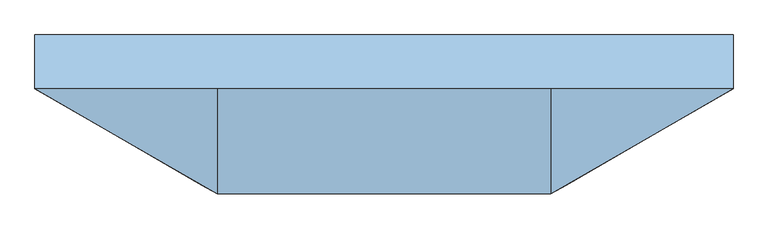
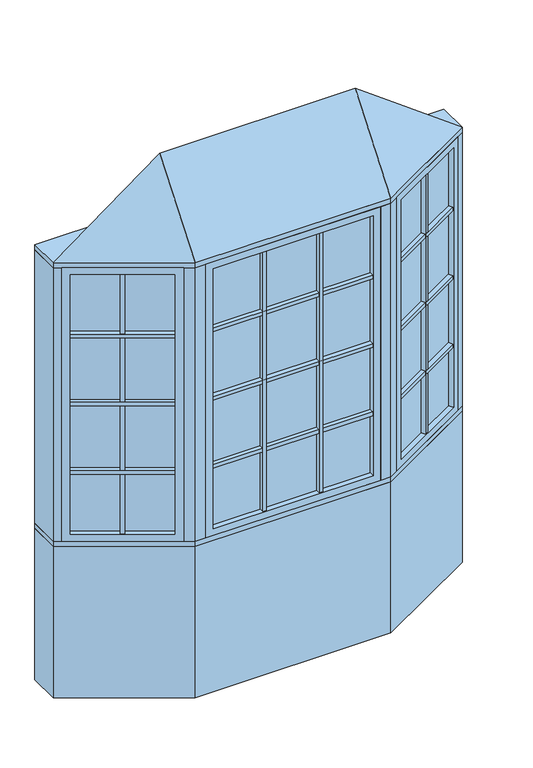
"""IFC4 building model written with IfcOpenShell, lengths in millimetres: window geometry, Pollard_Windows_Tudor Casement Bows and Bays : AML-BAY 30 AFR0514-10-500_GC."""

from ifc_helpers import new_model, si_unit, frame, origin, origin_with_axes, place, context, project, spatial, polyline, outline, extrude, faceted_brep, source, transform, mapped, element, save


def window_1a263967(model_context):
    return source(origin(), model_context, "Body", "SolidModel", [
        extrude(outline(polyline([(545.7305346, -327.3537343), (534.7305346, -308.3011754), (915.6135794, -88.3982469), (926.6135794, -107.4508058), (545.7305346, -327.3537343)])), frame((0.0, 0.0, 1490.998), z_axis=(0.0, 0.0, 1.0), x_axis=(1.0, 0.0, 0.0)), (0.0, 0.0, 1.0), 18.0),
        extrude(outline(polyline([(532.1905346, -303.9017664), (521.1905346, -284.8492075), (902.0735794, -64.946279), (913.0735794, -83.9988379), (532.1905346, -303.9017664)])), frame((0.0, 0.0, 1490.998), z_axis=(0.0, 0.0, 1.0), x_axis=(1.0, 0.0, 0.0)), (0.0, 0.0, 1.0), 18.0),
        extrude(outline(polyline([(545.7305346, -327.3537343), (534.7305346, -308.3011754), (915.6135794, -88.3982469), (926.6135794, -107.4508058), (545.7305346, -327.3537343)])), frame((0.0, 0.0, 1140.998), z_axis=(0.0, 0.0, 1.0), x_axis=(1.0, 0.0, 0.0)), (0.0, 0.0, 1.0), 18.0),
        extrude(outline(polyline([(532.1905346, -303.9017664), (521.1905346, -284.8492075), (902.0735794, -64.946279), (913.0735794, -83.9988379), (532.1905346, -303.9017664)])), frame((0.0, 0.0, 1140.998), z_axis=(0.0, 0.0, 1.0), x_axis=(1.0, 0.0, 0.0)), (0.0, 0.0, 1.0), 18.0),
        extrude(outline(polyline([(545.7305346, -327.3537343), (534.7305346, -308.3011754), (915.6135794, -88.3982469), (926.6135794, -107.4508058), (545.7305346, -327.3537343)])), frame((0.0, 0.0, 1490.998), z_axis=(0.0, 0.0, 1.0), x_axis=(1.0, 0.0, 0.0)), (0.0, 0.0, 1.0), 18.0),
        extrude(outline(polyline([(532.1905346, -303.9017664), (521.1905346, -284.8492075), (902.0735794, -64.946279), (913.0735794, -83.9988379), (532.1905346, -303.9017664)])), frame((0.0, 0.0, 1490.998), z_axis=(0.0, 0.0, 1.0), x_axis=(1.0, 0.0, 0.0)), (0.0, 0.0, 1.0), 18.0),
        extrude(outline(polyline([(545.7305346, -327.3537343), (534.7305346, -308.3011754), (915.6135794, -88.3982469), (926.6135794, -107.4508058), (545.7305346, -327.3537343)])), frame((0.0, 0.0, 1490.998), z_axis=(0.0, 0.0, 1.0), x_axis=(1.0, 0.0, 0.0)), (0.0, 0.0, 1.0), 18.0),
        extrude(outline(polyline([(532.1905346, -303.9017664), (521.1905346, -284.8492075), (902.0735794, -64.946279), (913.0735794, -83.9988379), (532.1905346, -303.9017664)])), frame((0.0, 0.0, 1490.998), z_axis=(0.0, 0.0, 1.0), x_axis=(1.0, 0.0, 0.0)), (0.0, 0.0, 1.0), 18.0),
        extrude(outline(polyline([(545.7305346, -327.3537343), (534.7305346, -308.3011754), (915.6135794, -88.3982469), (926.6135794, -107.4508058), (545.7305346, -327.3537343)])), frame((0.0, 0.0, 1840.998), z_axis=(0.0, 0.0, 1.0), x_axis=(1.0, 0.0, 0.0)), (0.0, 0.0, 1.0), 18.0),
        extrude(outline(polyline([(532.1905346, -303.9017664), (521.1905346, -284.8492075), (902.0735794, -64.946279), (913.0735794, -83.9988379), (532.1905346, -303.9017664)])), frame((0.0, 0.0, 1840.998), z_axis=(0.0, 0.0, 1.0), x_axis=(1.0, 0.0, 0.0)), (0.0, 0.0, 1.0), 18.0),
        extrude(outline(polyline([(732.9662856, -193.8497112), (743.9662856, -212.9022701), (728.3778284, -221.9022701), (717.3778284, -202.8497112), (732.9662856, -193.8497112)])), frame((0.0, 0.0, 835.8628), z_axis=(0.0, 0.0, 1.0), x_axis=(1.0, 0.0, 0.0)), (0.0, 0.0, 1.0), 1328.2704),
        extrude(outline(polyline([(730.4262856, -189.4503021), (714.8378284, -198.4503021), (703.8378284, -179.3977432), (719.4262856, -170.3977432), (730.4262856, -189.4503021)])), frame((0.0, 0.0, 835.8628), z_axis=(0.0, 0.0, 1.0), x_axis=(1.0, 0.0, 0.0)), (0.0, 0.0, 1.0), 1328.2704),
        extrude(outline(polyline([(926.612102, -82.0482469), (523.7320119, -314.6511754), (521.1920119, -310.2517664), (924.072102, -77.6488379), (926.612102, -82.0482469)])), frame((0.0, 0.0, 823.1628), z_axis=(0.0, 0.0, 1.0), x_axis=(1.0, 0.0, 0.0)), (0.0, 0.0, 1.0), 1353.6704),
        faceted_brep([(915.6135794, -88.3982469, 835.8628), (928.3135794, -110.3952922, 835.8628), (928.3135794, -110.3952922, 2164.1332), (915.6135794, -88.3982469, 2164.1332), (924.072102, -77.6488379, 823.1628), (926.612102, -82.0482469, 823.1628), (926.612102, -82.0482469, 2176.8332), (924.072102, -77.6488379, 2176.8332), (900.3735794, -62.0017926, 835.8628), (913.0735794, -83.9988379, 835.8628), (913.0735794, -83.9988379, 2164.1332), (900.3735794, -62.0017926, 2164.1332), (959.3734073, -92.4628922, 799.998), (931.4334073, -44.0693926, 799.998), (931.4334073, -44.0693926, 2199.998), (959.3734073, -92.4628922, 2199.998), (547.4305346, -330.2982207, 2164.1332), (534.7305346, -308.3011754, 2164.1332), (523.7320119, -314.6511754, 2176.8332), (521.1920119, -310.2517664, 2176.8332), (532.1905346, -303.9017664, 2164.1332), (519.4905346, -281.9047211, 2164.1332), (488.4307067, -299.8371211, 2199.998), (516.3707067, -348.2306207, 2199.998), (547.4305346, -330.2982207, 835.8628), (534.7305346, -308.3011754, 835.8628), (523.7320119, -314.6511754, 823.1628), (521.1920119, -310.2517664, 823.1628), (532.1905346, -303.9017664, 835.8628), (519.4905346, -281.9047211, 835.8628), (488.4307067, -299.8371211, 799.998), (516.3707067, -348.2306207, 799.998)], [[[0, 1, 2, 3]], [[4, 5, 6, 7]], [[8, 9, 10, 11]], [[12, 13, 14, 15]], [[3, 2, 16, 17]], [[7, 6, 18, 19]], [[11, 10, 20, 21]], [[15, 14, 22, 23]], [[17, 16, 24, 25]], [[19, 18, 26, 27]], [[21, 20, 28, 29]], [[23, 22, 30, 31]], [[25, 24, 1, 0]], [[5, 26, 18, 6], [3, 17, 25, 0]], [[27, 26, 5, 4]], [[7, 19, 27, 4], [9, 28, 20, 10]], [[29, 28, 9, 8]], [[13, 30, 22, 14], [11, 21, 29, 8]], [[31, 30, 13, 12]], [[15, 23, 31, 12], [1, 24, 16, 2]]]),
        extrude(outline(polyline([(145.3016788, -347.8306207), (145.3016788, -369.8306207), (127.3016788, -369.8306207), (127.3016788, -347.8306207), (145.3016788, -347.8306207)])), frame((0.0, 0.0, 835.8628), z_axis=(0.0, 0.0, 1.0), x_axis=(1.0, 0.0, 0.0)), (0.0, 0.0, 1.0), 1328.2704),
        extrude(outline(polyline([(145.3016788, -342.7506207), (127.3016788, -342.7506207), (127.3016788, -320.7506207), (145.3016788, -320.7506207), (145.3016788, -342.7506207)])), frame((0.0, 0.0, 835.8628), z_axis=(0.0, 0.0, 1.0), x_axis=(1.0, 0.0, 0.0)), (0.0, 0.0, 1.0), 1328.2704),
        extrude(outline(polyline([(-127.3016788, -347.8306207), (-127.3016788, -369.8306207), (-145.3016788, -369.8306207), (-145.3016788, -347.8306207), (-127.3016788, -347.8306207)])), frame((0.0, 0.0, 835.8628), z_axis=(0.0, 0.0, 1.0), x_axis=(1.0, 0.0, 0.0)), (0.0, 0.0, 1.0), 1328.2704),
        extrude(outline(polyline([(-127.3016788, -342.7506207), (-145.3016788, -342.7506207), (-145.3016788, -320.7506207), (-127.3016788, -320.7506207), (-127.3016788, -342.7506207)])), frame((0.0, 0.0, 835.8628), z_axis=(0.0, 0.0, 1.0), x_axis=(1.0, 0.0, 0.0)), (0.0, 0.0, 1.0), 1328.2704),
        extrude(outline(polyline([(-387.2046365, -369.8306207), (-387.2046365, -347.8306207), (387.2046365, -347.8306207), (387.2046365, -369.8306207), (-387.2046365, -369.8306207)])), frame((0.0, 0.0, 1140.998), z_axis=(0.0, 0.0, 1.0), x_axis=(1.0, 0.0, 0.0)), (0.0, 0.0, 1.0), 18.0),
        extrude(outline(polyline([(-387.2046365, -342.7506207), (-387.2046365, -320.7506207), (387.2046365, -320.7506207), (387.2046365, -342.7506207), (-387.2046365, -342.7506207)])), frame((0.0, 0.0, 1140.998), z_axis=(0.0, 0.0, 1.0), x_axis=(1.0, 0.0, 0.0)), (0.0, 0.0, 1.0), 18.0),
        extrude(outline(polyline([(-387.2046365, -369.8306207), (-387.2046365, -347.8306207), (387.2046365, -347.8306207), (387.2046365, -369.8306207), (-387.2046365, -369.8306207)])), frame((0.0, 0.0, 1490.998), z_axis=(0.0, 0.0, 1.0), x_axis=(1.0, 0.0, 0.0)), (0.0, 0.0, 1.0), 18.0),
        extrude(outline(polyline([(-387.2046365, -342.7506207), (-387.2046365, -320.7506207), (387.2046365, -320.7506207), (387.2046365, -342.7506207), (-387.2046365, -342.7506207)])), frame((0.0, 0.0, 1490.998), z_axis=(0.0, 0.0, 1.0), x_axis=(1.0, 0.0, 0.0)), (0.0, 0.0, 1.0), 18.0),
        extrude(outline(polyline([(-387.2046365, -369.8306207), (-387.2046365, -347.8306207), (387.2046365, -347.8306207), (387.2046365, -369.8306207), (-387.2046365, -369.8306207)])), frame((0.0, 0.0, 1490.998), z_axis=(0.0, 0.0, 1.0), x_axis=(1.0, 0.0, 0.0)), (0.0, 0.0, 1.0), 18.0),
        extrude(outline(polyline([(-387.2046365, -342.7506207), (-387.2046365, -320.7506207), (387.2046365, -320.7506207), (387.2046365, -342.7506207), (-387.2046365, -342.7506207)])), frame((0.0, 0.0, 1490.998), z_axis=(0.0, 0.0, 1.0), x_axis=(1.0, 0.0, 0.0)), (0.0, 0.0, 1.0), 18.0),
        extrude(outline(polyline([(-387.2046365, -369.8306207), (-387.2046365, -347.8306207), (387.2046365, -347.8306207), (387.2046365, -369.8306207), (-387.2046365, -369.8306207)])), frame((0.0, 0.0, 1490.998), z_axis=(0.0, 0.0, 1.0), x_axis=(1.0, 0.0, 0.0)), (0.0, 0.0, 1.0), 18.0),
        extrude(outline(polyline([(-387.2046365, -342.7506207), (-387.2046365, -320.7506207), (387.2046365, -320.7506207), (387.2046365, -342.7506207), (-387.2046365, -342.7506207)])), frame((0.0, 0.0, 1490.998), z_axis=(0.0, 0.0, 1.0), x_axis=(1.0, 0.0, 0.0)), (0.0, 0.0, 1.0), 18.0),
        extrude(outline(polyline([(-926.6135794, -107.4508058), (-915.6135794, -88.3982469), (-534.7305346, -308.3011754), (-545.7305346, -327.3537343), (-926.6135794, -107.4508058)])), frame((0.0, 0.0, 1140.998), z_axis=(0.0, 0.0, 1.0), x_axis=(1.0, 0.0, 0.0)), (0.0, 0.0, 1.0), 18.0),
        extrude(outline(polyline([(-913.0735794, -83.9988379), (-902.0735794, -64.946279), (-521.1905346, -284.8492075), (-532.1905346, -303.9017664), (-913.0735794, -83.9988379)])), frame((0.0, 0.0, 1140.998), z_axis=(0.0, 0.0, 1.0), x_axis=(1.0, 0.0, 0.0)), (0.0, 0.0, 1.0), 18.0),
        extrude(outline(polyline([(-926.6135794, -107.4508058), (-915.6135794, -88.3982469), (-534.7305346, -308.3011754), (-545.7305346, -327.3537343), (-926.6135794, -107.4508058)])), frame((0.0, 0.0, 1490.998), z_axis=(0.0, 0.0, 1.0), x_axis=(1.0, 0.0, 0.0)), (0.0, 0.0, 1.0), 18.0),
        extrude(outline(polyline([(-913.0735794, -83.9988379), (-902.0735794, -64.946279), (-521.1905346, -284.8492075), (-532.1905346, -303.9017664), (-913.0735794, -83.9988379)])), frame((0.0, 0.0, 1490.998), z_axis=(0.0, 0.0, 1.0), x_axis=(1.0, 0.0, 0.0)), (0.0, 0.0, 1.0), 18.0),
        extrude(outline(polyline([(-926.6135794, -107.4508058), (-915.6135794, -88.3982469), (-534.7305346, -308.3011754), (-545.7305346, -327.3537343), (-926.6135794, -107.4508058)])), frame((0.0, 0.0, 1490.998), z_axis=(0.0, 0.0, 1.0), x_axis=(1.0, 0.0, 0.0)), (0.0, 0.0, 1.0), 18.0),
        extrude(outline(polyline([(-913.0735794, -83.9988379), (-902.0735794, -64.946279), (-521.1905346, -284.8492075), (-532.1905346, -303.9017664), (-913.0735794, -83.9988379)])), frame((0.0, 0.0, 1490.998), z_axis=(0.0, 0.0, 1.0), x_axis=(1.0, 0.0, 0.0)), (0.0, 0.0, 1.0), 18.0),
        extrude(outline(polyline([(-926.6135794, -107.4508058), (-915.6135794, -88.3982469), (-534.7305346, -308.3011754), (-545.7305346, -327.3537343), (-926.6135794, -107.4508058)])), frame((0.0, 0.0, 1490.998), z_axis=(0.0, 0.0, 1.0), x_axis=(1.0, 0.0, 0.0)), (0.0, 0.0, 1.0), 18.0),
        extrude(outline(polyline([(-913.0735794, -83.9988379), (-902.0735794, -64.946279), (-521.1905346, -284.8492075), (-532.1905346, -303.9017664), (-913.0735794, -83.9988379)])), frame((0.0, 0.0, 1490.998), z_axis=(0.0, 0.0, 1.0), x_axis=(1.0, 0.0, 0.0)), (0.0, 0.0, 1.0), 18.0),
        extrude(outline(polyline([(-926.6135794, -107.4508058), (-915.6135794, -88.3982469), (-534.7305346, -308.3011754), (-545.7305346, -327.3537343), (-926.6135794, -107.4508058)])), frame((0.0, 0.0, 1840.998), z_axis=(0.0, 0.0, 1.0), x_axis=(1.0, 0.0, 0.0)), (0.0, 0.0, 1.0), 18.0),
        extrude(outline(polyline([(-913.0735794, -83.9988379), (-902.0735794, -64.946279), (-521.1905346, -284.8492075), (-532.1905346, -303.9017664), (-913.0735794, -83.9988379)])), frame((0.0, 0.0, 1840.998), z_axis=(0.0, 0.0, 1.0), x_axis=(1.0, 0.0, 0.0)), (0.0, 0.0, 1.0), 18.0),
        extrude(outline(polyline([(-387.2046365, -369.8306207), (-387.2046365, -347.8306207), (387.2046365, -347.8306207), (387.2046365, -369.8306207), (-387.2046365, -369.8306207)])), frame((0.0, 0.0, 1840.998), z_axis=(0.0, 0.0, 1.0), x_axis=(1.0, 0.0, 0.0)), (0.0, 0.0, 1.0), 18.0),
        extrude(outline(polyline([(-387.2046365, -342.7506207), (-387.2046365, -320.7506207), (387.2046365, -320.7506207), (387.2046365, -342.7506207), (-387.2046365, -342.7506207)])), frame((0.0, 0.0, 1840.998), z_axis=(0.0, 0.0, 1.0), x_axis=(1.0, 0.0, 0.0)), (0.0, 0.0, 1.0), 18.0),
        extrude(outline(polyline([(-717.3778284, -202.8497112), (-728.3778284, -221.9022701), (-743.9662856, -212.9022701), (-732.9662856, -193.8497112), (-717.3778284, -202.8497112)])), frame((0.0, 0.0, 835.8628), z_axis=(0.0, 0.0, 1.0), x_axis=(1.0, 0.0, 0.0)), (0.0, 0.0, 1.0), 1328.2704),
        extrude(outline(polyline([(-714.8378284, -198.4503021), (-730.4262856, -189.4503021), (-719.4262856, -170.3977432), (-703.8378284, -179.3977432), (-714.8378284, -198.4503021)])), frame((0.0, 0.0, 835.8628), z_axis=(0.0, 0.0, 1.0), x_axis=(1.0, 0.0, 0.0)), (0.0, 0.0, 1.0), 1328.2704),
        extrude(outline(polyline([(-523.7320119, -314.6511754), (-926.612102, -82.0482469), (-924.072102, -77.6488379), (-521.1920119, -310.2517664), (-523.7320119, -314.6511754)])), frame((0.0, 0.0, 823.1628), z_axis=(0.0, 0.0, 1.0), x_axis=(1.0, 0.0, 0.0)), (0.0, 0.0, 1.0), 1353.6704),
        faceted_brep([(-532.1905346, -303.9017664, 2164.1332), (-519.4905346, -281.9047211, 2164.1332), (-519.4905346, -281.9047211, 835.8628), (-532.1905346, -303.9017664, 835.8628), (-523.7320119, -314.6511754, 2176.8332), (-521.1920119, -310.2517664, 2176.8332), (-521.1920119, -310.2517664, 823.1628), (-523.7320119, -314.6511754, 823.1628), (-547.4305346, -330.2982207, 2164.1332), (-534.7305346, -308.3011754, 2164.1332), (-534.7305346, -308.3011754, 835.8628), (-547.4305346, -330.2982207, 835.8628), (-488.4307067, -299.8371211, 2199.998), (-516.3707067, -348.2306207, 2199.998), (-516.3707067, -348.2306207, 799.998), (-488.4307067, -299.8371211, 799.998), (-900.3735794, -62.0017926, 835.8628), (-913.0735794, -83.9988379, 835.8628), (-924.072102, -77.6488379, 823.1628), (-926.612102, -82.0482469, 823.1628), (-915.6135794, -88.3982469, 835.8628), (-928.3135794, -110.3952922, 835.8628), (-959.3734073, -92.4628922, 799.998), (-931.4334073, -44.0693926, 799.998), (-900.3735794, -62.0017926, 2164.1332), (-913.0735794, -83.9988379, 2164.1332), (-924.072102, -77.6488379, 2176.8332), (-926.612102, -82.0482469, 2176.8332), (-915.6135794, -88.3982469, 2164.1332), (-928.3135794, -110.3952922, 2164.1332), (-959.3734073, -92.4628922, 2199.998), (-931.4334073, -44.0693926, 2199.998)], [[[0, 1, 2, 3]], [[4, 5, 6, 7]], [[8, 9, 10, 11]], [[12, 13, 14, 15]], [[3, 2, 16, 17]], [[7, 6, 18, 19]], [[11, 10, 20, 21]], [[15, 14, 22, 23]], [[17, 16, 24, 25]], [[19, 18, 26, 27]], [[21, 20, 28, 29]], [[23, 22, 30, 31]], [[15, 23, 31, 12], [1, 24, 16, 2]], [[25, 24, 1, 0]], [[5, 26, 18, 6], [3, 17, 25, 0]], [[27, 26, 5, 4]], [[7, 19, 27, 4], [9, 28, 20, 10]], [[29, 28, 9, 8]], [[13, 30, 22, 14], [11, 21, 29, 8]], [[31, 30, 13, 12]]]),
        extrude(outline(polyline([(399.9046365, -347.8306207), (-399.9046365, -347.8306207), (-399.9046365, -342.7506207), (399.9046365, -342.7506207), (399.9046365, -347.8306207)])), frame((0.0, 0.0, 823.1628), z_axis=(0.0, 0.0, 1.0), x_axis=(1.0, 0.0, 0.0)), (0.0, 0.0, 1.0), 1353.6704),
        faceted_brep([(387.2046365, -347.8306207, 835.8628), (387.2046365, -373.2306207, 835.8628), (387.2046365, -373.2306207, 2164.1332), (387.2046365, -347.8306207, 2164.1332), (399.9046365, -342.7506207, 823.1628), (399.9046365, -347.8306207, 823.1628), (399.9046365, -347.8306207, 2176.8332), (399.9046365, -342.7506207, 2176.8332), (387.2046365, -317.3506207, 835.8628), (387.2046365, -342.7506207, 835.8628), (387.2046365, -342.7506207, 2164.1332), (387.2046365, -317.3506207, 2164.1332), (423.0694365, -373.2306207, 799.998), (423.0694365, -317.3506207, 799.998), (423.0694365, -317.3506207, 2199.998), (423.0694365, -373.2306207, 2199.998), (-387.2046365, -373.2306207, 2164.1332), (-387.2046365, -347.8306207, 2164.1332), (-399.9046365, -347.8306207, 2176.8332), (-399.9046365, -342.7506207, 2176.8332), (-387.2046365, -342.7506207, 2164.1332), (-387.2046365, -317.3506207, 2164.1332), (-423.0694365, -317.3506207, 2199.998), (-423.0694365, -373.2306207, 2199.998), (-387.2046365, -373.2306207, 835.8628), (-387.2046365, -347.8306207, 835.8628), (-399.9046365, -347.8306207, 823.1628), (-399.9046365, -342.7506207, 823.1628), (-387.2046365, -342.7506207, 835.8628), (-387.2046365, -317.3506207, 835.8628), (-423.0694365, -317.3506207, 799.998), (-423.0694365, -373.2306207, 799.998)], [[[0, 1, 2, 3]], [[4, 5, 6, 7]], [[8, 9, 10, 11]], [[12, 13, 14, 15]], [[3, 2, 16, 17]], [[7, 6, 18, 19]], [[11, 10, 20, 21]], [[15, 14, 22, 23]], [[17, 16, 24, 25]], [[19, 18, 26, 27]], [[21, 20, 28, 29]], [[23, 22, 30, 31]], [[15, 23, 31, 12], [1, 24, 16, 2]], [[25, 24, 1, 0]], [[5, 26, 18, 6], [3, 17, 25, 0]], [[27, 26, 5, 4]], [[7, 19, 27, 4], [9, 28, 20, 10]], [[29, 28, 9, 8]], [[13, 30, 22, 14], [11, 21, 29, 8]], [[31, 30, 13, 12]]]),
        faceted_brep([(990.0, -74.7806207, 2225.398), (473.0694365, -373.2306207, 2225.398), (-473.0694365, -373.2306207, 2225.398), (-990.0, -74.7806207, 2225.398), (-473.0694365, -74.7806207, 2606.398), (473.0694365, -74.7806207, 2606.398)], [[[0, 1, 2, 3]], [[3, 2, 4]], [[2, 1, 5, 4]], [[1, 0, 5]], [[0, 3, 4, 5]]]),
        extrude(outline(polyline([(-990.0, 77.6193793), (990.0, 77.6193793), (990.0, -74.7806207), (473.0694365, -373.2306207), (-473.0694365, -373.2306207), (-990.0, -74.7806207), (-990.0, 77.6193793)])), frame((0.0, 0.0, 2199.998), z_axis=(0.0, 0.0, 1.0), x_axis=(1.0, 0.0, 0.0)), (0.0, 0.0, 1.0), 25.4),
        extrude(outline(polyline([(-990.0, -74.7806207), (-990.0, 77.6193793), (-949.1645431, 77.6193793), (-949.1645431, -74.7806207), (-959.3734073, -92.4628922), (-990.0, -74.7806207)])), frame((0.0, 0.0, 799.998), z_axis=(0.0, 0.0, 1.0), x_axis=(1.0, 0.0, 0.0)), (0.0, 0.0, 1.0), 1400.0),
        extrude(outline(polyline([(990.0, 77.6193793), (990.0, -74.7806207), (959.3734073, -92.4628922), (949.1645431, -74.7806207), (949.1645431, 77.6193793), (990.0, 77.6193793)])), frame((0.0, 0.0, 799.998), z_axis=(0.0, 0.0, 1.0), x_axis=(1.0, 0.0, 0.0)), (0.0, 0.0, 1.0), 1400.0),
        extrude(outline(polyline([(473.0694365, -373.2306207), (423.0694365, -373.2306207), (423.0694365, -323.2306207), (459.6719769, -323.2306207), (491.3707067, -304.9293505), (516.3707067, -348.2306207), (473.0694365, -373.2306207)])), frame((0.0, 0.0, 799.998), z_axis=(0.0, 0.0, 1.0), x_axis=(1.0, 0.0, 0.0)), (0.0, 0.0, 1.0), 1400.0),
        extrude(outline(polyline([(-473.0694365, -373.2306207), (-516.3707067, -348.2306207), (-491.3707067, -304.9293505), (-459.6719769, -323.2306207), (-423.0694365, -323.2306207), (-423.0694365, -373.2306207), (-473.0694365, -373.2306207)])), frame((0.0, 0.0, 799.998), z_axis=(0.0, 0.0, 1.0), x_axis=(1.0, 0.0, 0.0)), (0.0, 0.0, 1.0), 1400.0),
        extrude(outline(polyline([(-473.0694365, -373.2306207), (-990.0, -74.7806207), (-990.0, 77.6193793), (-949.1645431, 77.6193793), (-432.2339796, -220.8306207), (432.2339796, -220.8306207), (949.1645431, 77.6193793), (990.0, 77.6193793), (990.0, -74.7806207), (473.0694365, -373.2306207), (-473.0694365, -373.2306207)])), frame((0.0, 0.0, 774.598), z_axis=(0.0, 0.0, 1.0), x_axis=(1.0, 0.0, 0.0)), (0.0, 0.0, 1.0), 25.4),
        extrude(outline(polyline([(-990.0, -74.7806207), (-990.0, 77.6193793), (-949.1645431, 77.6193793), (-432.2339796, -220.8306207), (432.2339796, -220.8306207), (949.1645431, 77.6193793), (990.0, 77.6193793), (990.0, -74.7806207), (473.0694365, -373.2306207), (-473.0694365, -373.2306207), (-990.0, -74.7806207)])), origin_with_axes(), (0.0, 0.0, 1.0), 774.598),
    ])


if __name__ == "__main__":
    model = new_model("IFC4")
    model_context = context("Model", 3, world=origin())
    ifc_project = project(units=[si_unit("LENGTHUNIT", "METRE", prefix="MILLI")], contexts=[model_context])
    site = spatial("IfcSite", under=ifc_project)
    building = spatial("IfcBuilding", under=site)
    placement = place(None, origin())
    window_shape = window_1a263967(model_context)
    element("IfcWindow", 1, ObjectType="Pollard_Windows_Tudor Casement Bows and Bays : AML-BAY 30 AFR0514-10-500_GC", at=placement, inside=building, context=model_context, shape_type="MappedRepresentation", body=[
        mapped(window_shape, transform((0.0, 0.0, 0.0), x_axis=(1.0, 0.0, 0.0), y_axis=(0.0, 1.0, 0.0), z_axis=(0.0, 0.0, 1.0))),
    ])
    save(model, "model.ifc")
